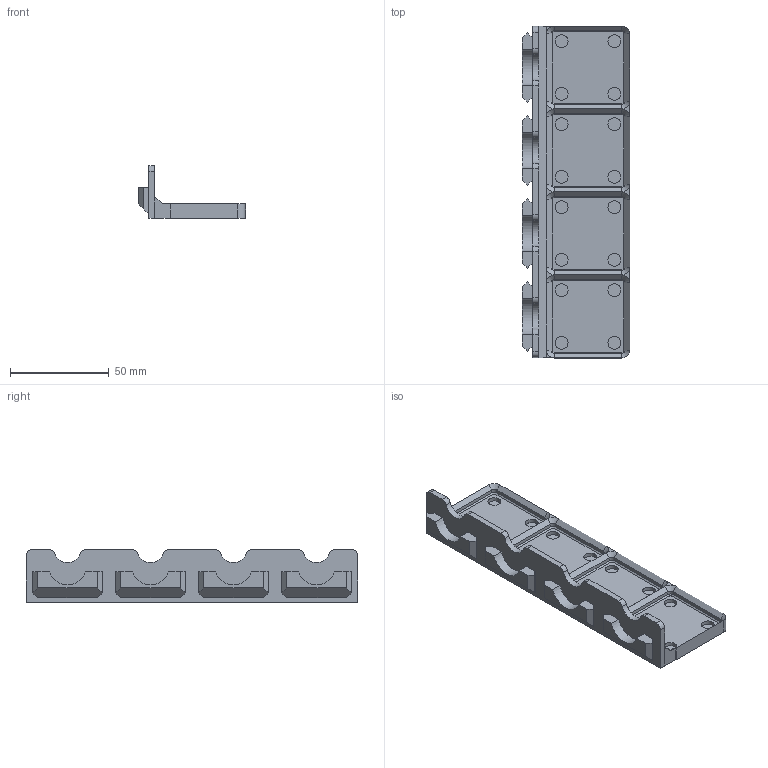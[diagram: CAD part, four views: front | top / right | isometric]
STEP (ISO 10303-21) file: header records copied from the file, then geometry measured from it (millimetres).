
FILE_DESCRIPTION(/* description */ ('','CAx-IF Rec.Pracs.---Representation and Presentation of Product Manufacturing Information (PMI)---4.0---2014-10-13'),/* implementation_level */ '2;1');
FILE_NAME(/* name */ 'Goews Quad Hanger Gridfinity with Magnets 1x4 Base v1.step',/* time_stamp */ '2024-12-14T22:27:46-05:00',/* author */ (''),/* organization */ (''),/* preprocessor_version */ 'ST-DEVELOPER v20',/* originating_system */ 'Autodesk Translation Framework v13.20.0.188',/* authorisation */ '');
FILE_SCHEMA (('AP242_MANAGED_MODEL_BASED_3D_ENGINEERING_MIM_LF { 1 0 10303 442 1 1 4 }'));
Length unit declared in the file: millimetre
Products named in the file (1): Goews Quad Hanger Gridfinity with Magnets 1x4 Base
Bounding box: 54.15 x 168 x 26.72 mm (x, y, z)
Volume: 47715.2 mm3; surface area: 29500.1 mm2
Topology: 1 solids, 1 shells, 238 faces, 528 edges, 312 vertices
Faces by surface type: plane 140, cylinder 66, cone 32
Full cylindrical faces by diameter (mm): 6.5 x16
Entity records: 6455 total; most frequent: DIRECTION 1156, CARTESIAN_POINT 1079, ORIENTED_EDGE 1056, EDGE_CURVE 528, AXIS2_PLACEMENT_3D 389, LINE 378, VECTOR 378, VERTEX_POINT 312
